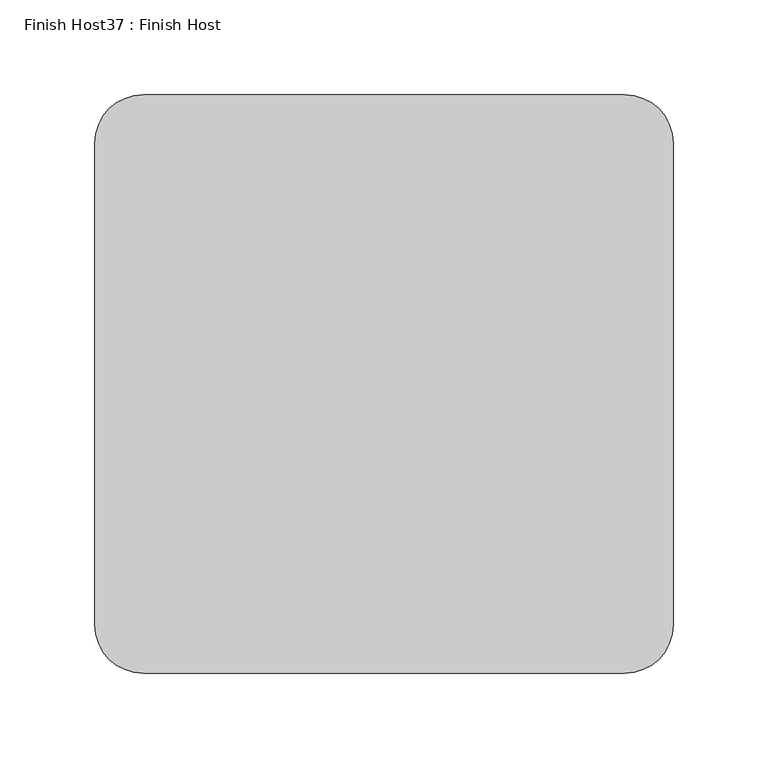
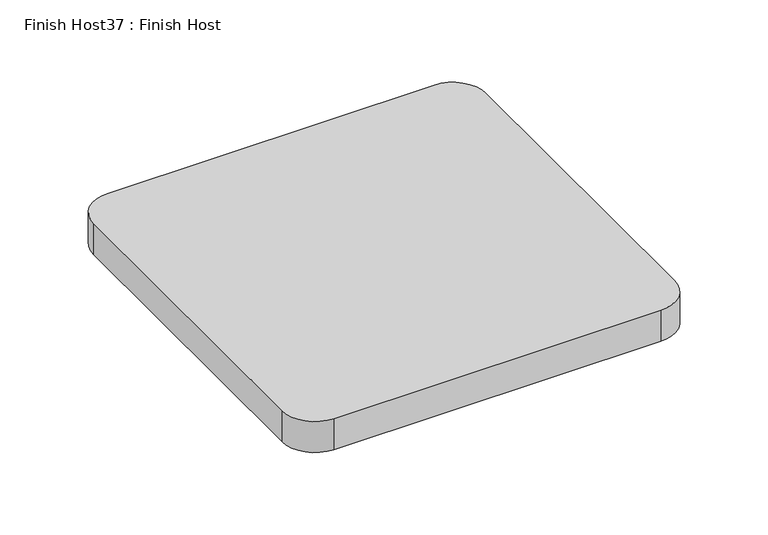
"""IFC4 building model written with IfcOpenShell, lengths in millimetres: proxy geometry, Finish Host37 : Finish Host."""

from ifc_helpers import new_model, si_unit, point, frame_2d, origin, origin_with_axes, place, context, project, spatial, polyline, circle_curve, trimmed, segment, composite_curve, outline, extrude, source, transform, mapped, element, save


def finish_host37_finish_host_7318c595(model_context):
    return source(origin(), model_context, "Body", "SweptSolid", [
        extrude(outline(composite_curve([segment(polyline([(4594.6934426, 3188.0122951), (4594.6934426, 3442.0122951)]), True, "CONTINUOUS"), segment(trimmed(circle_curve(frame_2d((4620.0934426, 3442.0122951)), 25.4), [point((4594.6934426, 3442.0122951))], [point((4620.0934426, 3467.4122951))], False, "CARTESIAN"), True, "CONTINUOUS"), segment(polyline([(4620.0934426, 3467.4122951), (4874.0934426, 3467.4122951)]), True, "CONTINUOUS"), segment(trimmed(circle_curve(frame_2d((4874.0934426, 3442.0122951)), 25.4), [point((4874.0934426, 3467.4122951))], [point((4899.4934426, 3442.0122951))], False, "CARTESIAN"), True, "CONTINUOUS"), segment(polyline([(4899.4934426, 3442.0122951), (4899.4934426, 3188.0122951)]), True, "CONTINUOUS"), segment(trimmed(circle_curve(frame_2d((4874.0934426, 3188.0122951)), 25.4), [point((4899.4934426, 3188.0122951))], [point((4874.0934426, 3162.6122951))], False, "CARTESIAN"), True, "CONTINUOUS"), segment(polyline([(4874.0934426, 3162.6122951), (4620.0934426, 3162.6122951)]), True, "CONTINUOUS"), segment(trimmed(circle_curve(frame_2d((4620.0934426, 3188.0122951)), 25.4), [point((4620.0934426, 3162.6122951))], [point((4594.6934426, 3188.0122951))], False, "CARTESIAN"), True, "CONTINUOUS")], self_intersect=False)), origin_with_axes(), (0.0, 0.0, 1.0), 25.4),
    ])


if __name__ == "__main__":
    model = new_model("IFC4")
    model_context = context("Model", 3, world=origin())
    ifc_project = project(units=[si_unit("LENGTHUNIT", "METRE", prefix="MILLI")], contexts=[model_context])
    site = spatial("IfcSite", under=ifc_project)
    building = spatial("IfcBuilding", under=site)
    placement = place(None, origin())
    finish_host37_finish_host_shape = finish_host37_finish_host_7318c595(model_context)
    element("IfcBuildingElementProxy", 1, Name="Finish Host37 : Finish Host", ObjectType="Finish Host37 : Finish Host", at=placement, inside=building, context=model_context, shape_type="MappedRepresentation", body=[
        mapped(finish_host37_finish_host_shape, transform((0.0, 0.0, 0.0), x_axis=(1.0, 0.0, 0.0), y_axis=(0.0, 1.0, 0.0), z_axis=(0.0, 0.0, 1.0))),
    ])
    save(model, "model.ifc")
